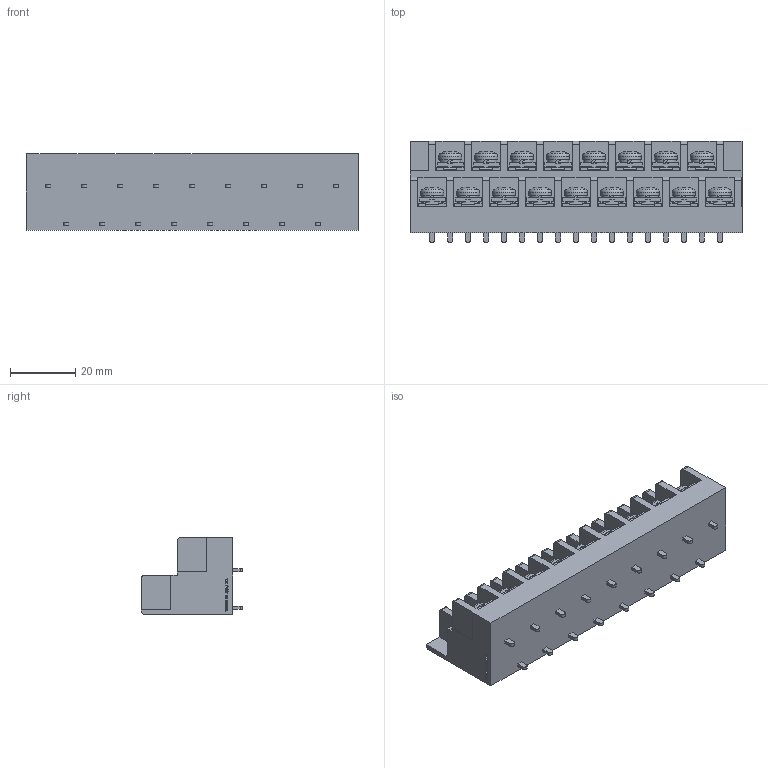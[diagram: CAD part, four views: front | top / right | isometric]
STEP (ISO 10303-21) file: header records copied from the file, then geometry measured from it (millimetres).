
FILE_DESCRIPTION(/* description */ ('Alibre Inc.'),/* implementation_level */ '2;1');
FILE_NAME(/* name */ 'export0',/* time_stamp */ '2016-08-06T14:09:23+09:00',/* author */ (''),/* organization */ (''),/* preprocessor_version */ 'ST-DEVELOPER v14',/* originating_system */ 'Alibre',/* authorisation */ '');
FILE_SCHEMA (('CONFIG_CONTROL_DESIGN'));
Length unit declared in the file: centimetre
Products named in the file (1): ID_1
Bounding box: 101.6 x 31 x 23.5 mm (x, y, z)
Volume: 42907.9 mm3; surface area: 19993.9 mm2
Topology: 1 solids, 145 shells, 3466 faces, 9067 edges, 5971 vertices
Faces by surface type: plane 2688, bspline 520, cylinder 139, cone 68, torus 34, sphere 17
Full cylindrical faces by diameter (mm): 4 x17, 7 x17
Entity records: 101224 total; most frequent: CARTESIAN_POINT 23191, ORIENTED_EDGE 18100, DIRECTION 11381, EDGE_CURVE 8982, VECTOR 6789, LINE 6789, VERTEX_POINT 5954, EDGE_LOOP 3754
